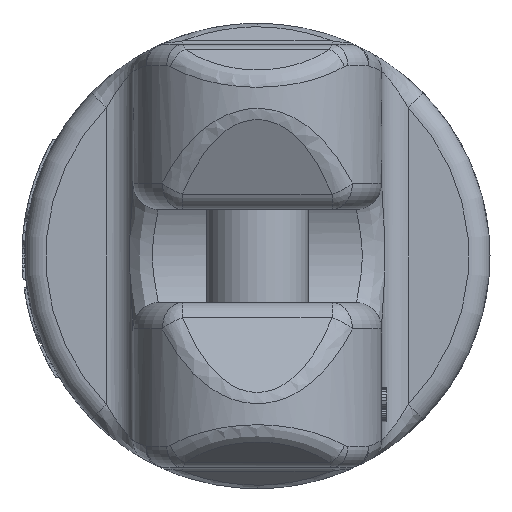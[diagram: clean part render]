
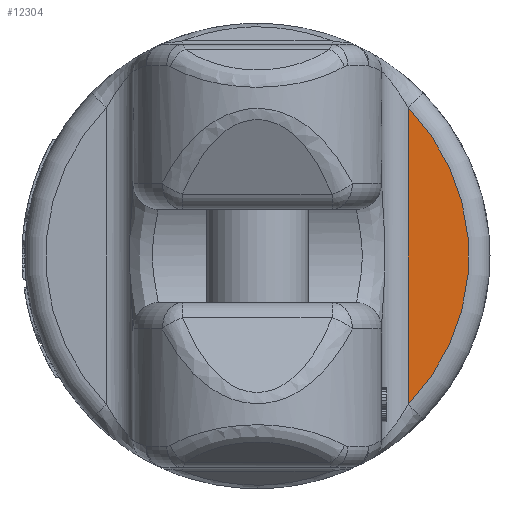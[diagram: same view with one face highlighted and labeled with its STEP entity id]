
A CAD part, left-side view. The second image highlights one B-rep face of the part: STEP entity #12304.
In plain terms, the highlighted planar face has unit normal (-1, 0, 0).
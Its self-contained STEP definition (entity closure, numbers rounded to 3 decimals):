
#3796=CARTESIAN_POINT('',(75.,-28.5,28.067));
#3798=DIRECTION('',(0.,0.,-1.));
#3799=VECTOR('',#3798,56.134);
#3800=CARTESIAN_POINT('',(75.,-28.5,28.067));
#3801=LINE('',#3800,#3799);
#3802=CARTESIAN_POINT('',(75.,-28.5,
-28.067));
#3925=CARTESIAN_POINT('',(75.,0.,0.));
#3926=DIRECTION('',(1.,0.,0.));
#3927=DIRECTION('',(0.,-0.712,0.702));
#3928=AXIS2_PLACEMENT_3D('',#3925,#3926,#3927);
#5920=VERTEX_POINT('',#3802);
#5951=VERTEX_POINT('',#3796);
#12295=CARTESIAN_POINT('',(75.,-44.,-40.));
#12296=DIRECTION('',(1.,0.,0.));
#12297=DIRECTION('',(0.,1.,0.));
#12298=AXIS2_PLACEMENT_3D('',#12295,#12296,#12297);
#12299=PLANE('',#12298);
#12300=ORIENTED_EDGE('',*,*,#11787,.F.);
#12301=ORIENTED_EDGE('',*,*,#11898,.T.);
#12302=EDGE_LOOP('',(#12300,#12301));
#12303=FACE_OUTER_BOUND('',#12302,.F.);
#12304=ADVANCED_FACE('',(#12303),#12299,.F.);
#3929=CIRCLE('',#3928,40.);
#11787=EDGE_CURVE('',#5951,#5920,#3801,.T.);
#11898=EDGE_CURVE('',#5951,#5920,#3929,.T.);
